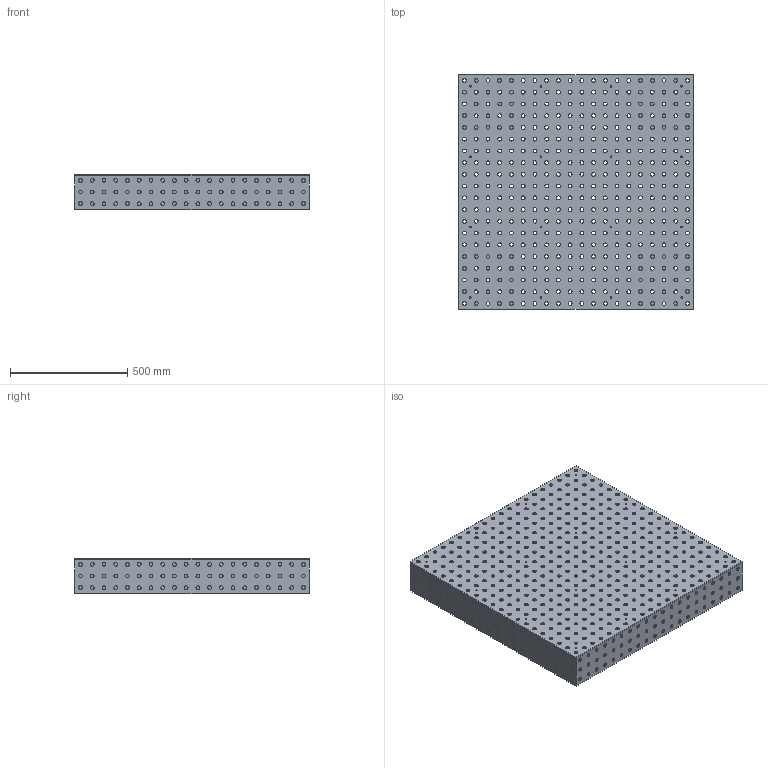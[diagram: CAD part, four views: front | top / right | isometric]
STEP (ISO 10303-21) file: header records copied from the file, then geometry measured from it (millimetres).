
FILE_DESCRIPTION(/* description */ (''),/* implementation_level */ '2;1');
FILE_NAME(/* name */ '3D Simplifi - 1000x1000 G3.step',/* time_stamp */ '2026-09-09T12:04:09+02:00',/* author */ (''),/* organization */ (''),/* preprocessor_version */ 'ST-DEVELOPER v20.2',/* originating_system */ 'Autodesk Translation Framework v15.15.0.0',/* authorisation */ '');
FILE_SCHEMA (('AUTOMOTIVE_DESIGN { 1 0 10303 214 3 1 1 }'));
Length unit declared in the file: millimetre
Products named in the file (1): 3D Simplifié - 1000x1000
Bounding box: 1000 x 1000 x 150 mm (x, y, z)
Volume: 15090476.7 mm3; surface area: 5374205.7 mm2
Topology: 6 solids, 6 shells, 788 faces, 2328 edges, 1552 vertices
Faces by surface type: cylinder 688, plane 100
Full cylindrical faces by diameter (mm): 6.5 x16, 16 x672
Entity records: 29952 total; most frequent: DIRECTION 5282, CARTESIAN_POINT 4669, ORIENTED_EDGE 4656, EDGE_CURVE 2328, EDGE_LOOP 2196, AXIS2_PLACEMENT_3D 2165, VERTEX_POINT 1552, FACE_BOUND 1408
